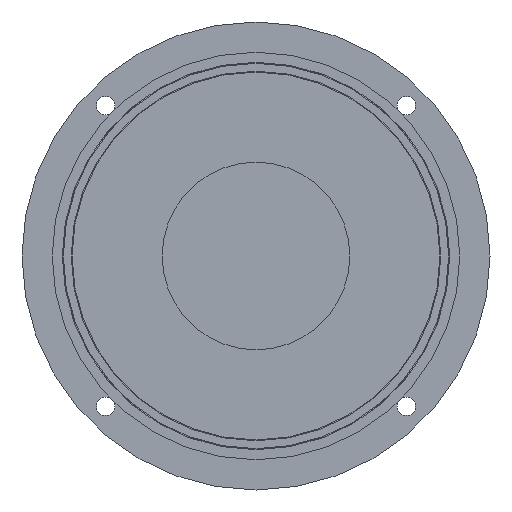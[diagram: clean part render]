
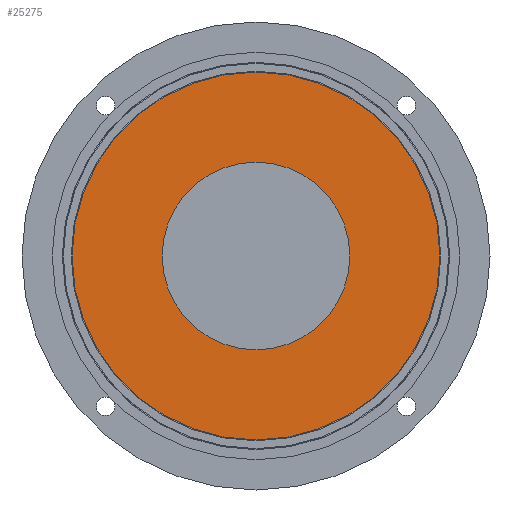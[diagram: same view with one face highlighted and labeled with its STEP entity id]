
A CAD part, front view. The second image highlights one B-rep face of the part: STEP entity #25275.
In plain terms, the highlighted planar face has unit normal (0, -1, 0).
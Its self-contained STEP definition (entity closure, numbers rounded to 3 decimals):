
#25166=CARTESIAN_POINT('',(11.189,-5.475,
95.58));
#25167=DIRECTION('',(0.,-1.,0.));
#25168=DIRECTION('',(1.,0.,0.));
#25169=AXIS2_PLACEMENT_3D('',#25166,#25167,#25168);
#25171=CARTESIAN_POINT('',(11.189,-5.475,
95.58));
#25172=DIRECTION('',(0.,-1.,0.));
#25173=DIRECTION('',(-1.,0.,0.));
#25174=AXIS2_PLACEMENT_3D('',#25171,#25172,#25173);
#25176=CARTESIAN_POINT('',(11.189,-5.475,
95.58));
#25177=DIRECTION('',(0.,-1.,0.));
#25178=DIRECTION('',(1.,0.,0.));
#25179=AXIS2_PLACEMENT_3D('',#25176,#25177,#25178);
#25181=CARTESIAN_POINT('',(11.189,-5.475,
95.58));
#25182=DIRECTION('',(0.,-1.,0.));
#25183=DIRECTION('',(-1.,0.,0.));
#25184=AXIS2_PLACEMENT_3D('',#25181,#25182,#25183);
#25208=CARTESIAN_POINT('',(56.774,-5.475,
95.58));
#25209=CARTESIAN_POINT('',(-34.396,-5.475,
95.58));
#25210=VERTEX_POINT('',#25208);
#25211=VERTEX_POINT('',#25209);
#25216=CARTESIAN_POINT('',(34.439,-5.475,
95.58));
#25217=CARTESIAN_POINT('',(-12.061,-5.475,
95.58));
#25218=VERTEX_POINT('',#25216);
#25219=VERTEX_POINT('',#25217);
#25260=CARTESIAN_POINT('',(11.189,-5.475,
95.58));
#25261=DIRECTION('',(0.,1.,0.));
#25262=DIRECTION('',(1.,0.,0.));
#25263=AXIS2_PLACEMENT_3D('',#25260,#25261,#25262);
#25264=PLANE('',#25263);
#25265=ORIENTED_EDGE('',*,*,#25240,.F.);
#25266=ORIENTED_EDGE('',*,*,#25254,.F.);
#25267=EDGE_LOOP('',(#25265,#25266));
#25268=FACE_OUTER_BOUND('',#25267,.F.);
#25270=ORIENTED_EDGE('',*,*,#25269,.T.);
#25272=ORIENTED_EDGE('',*,*,#25271,.T.);
#25273=EDGE_LOOP('',(#25270,#25272));
#25274=FACE_BOUND('',#25273,.F.);
#25275=ADVANCED_FACE('',(#25268,#25274),#25264,.F.);
#25170=CIRCLE('',#25169,45.585);
#25175=CIRCLE('',#25174,45.585);
#25180=CIRCLE('',#25179,23.25);
#25185=CIRCLE('',#25184,23.25);
#25240=EDGE_CURVE('',#25210,#25211,#25170,.T.);
#25254=EDGE_CURVE('',#25211,#25210,#25175,.T.);
#25269=EDGE_CURVE('',#25218,#25219,#25180,.T.);
#25271=EDGE_CURVE('',#25219,#25218,#25185,.T.);
